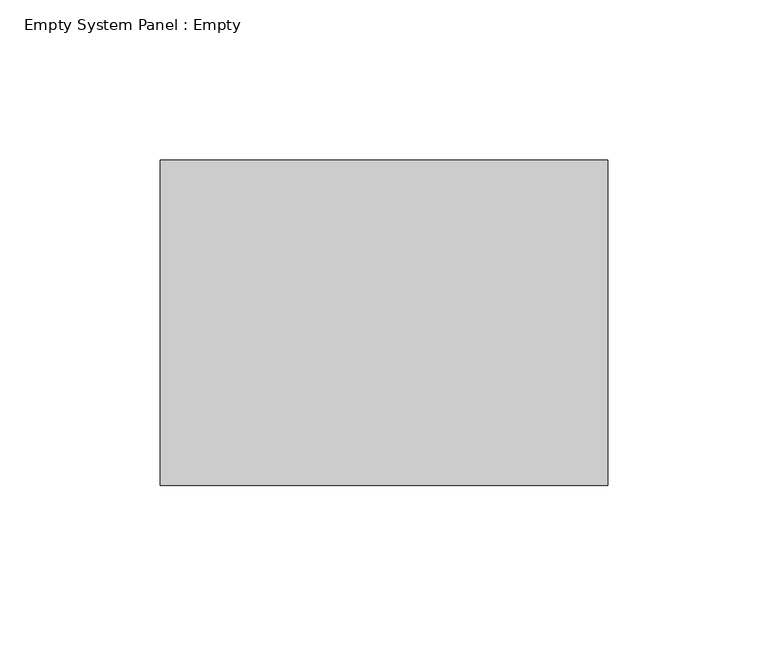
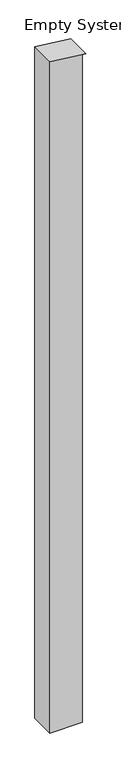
"""IFC4 building model written with IfcOpenShell, lengths in millimetres: plate geometry, Empty System Panel : Empty."""

from ifc_helpers import new_model, si_unit, frame, origin, place, context, project, spatial, polyline, outline, extrude, source, transform, mapped, element, save


def empty_system_panel_empty_205d457a(model_context):
    return source(origin(), model_context, "Body", "SweptSolid", [
        extrude(outline(polyline([(0.0, -69.85), (0.0, 57.15), (2758.4023518, 57.15), (2758.4023518, 69.85), (2774.0275417, -69.85), (0.0, -69.85)])), frame((0.0, -50.8, 0.0), z_axis=(0.0, 1.0, 0.0), x_axis=(0.0, 0.0, 1.0)), (0.0, 0.0, 1.0), 101.6),
    ])


if __name__ == "__main__":
    model = new_model("IFC4")
    model_context = context("Model", 3, world=origin())
    ifc_project = project(units=[si_unit("LENGTHUNIT", "METRE", prefix="MILLI")], contexts=[model_context])
    site = spatial("IfcSite", under=ifc_project)
    building = spatial("IfcBuilding", under=site)
    placement = place(None, origin())
    empty_system_panel_empty_shape = empty_system_panel_empty_205d457a(model_context)
    element("IfcPlate", 1, ObjectType="Empty System Panel : Empty", at=placement, inside=building, context=model_context, shape_type="MappedRepresentation", body=[
        mapped(empty_system_panel_empty_shape, transform((0.0, 0.0, 0.0), x_axis=(1.0, 0.0, 0.0), y_axis=(0.0, 1.0, 0.0), z_axis=(0.0, 0.0, 1.0))),
    ])
    save(model, "model.ifc")
